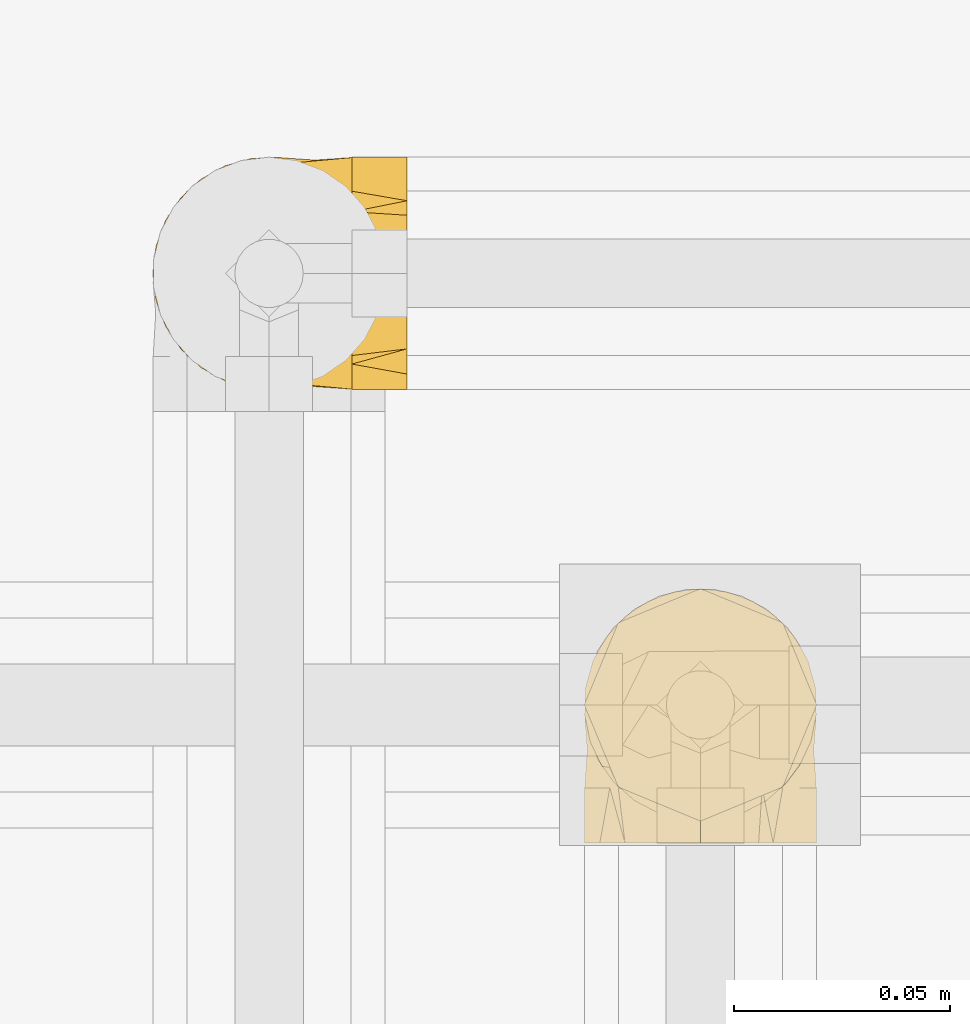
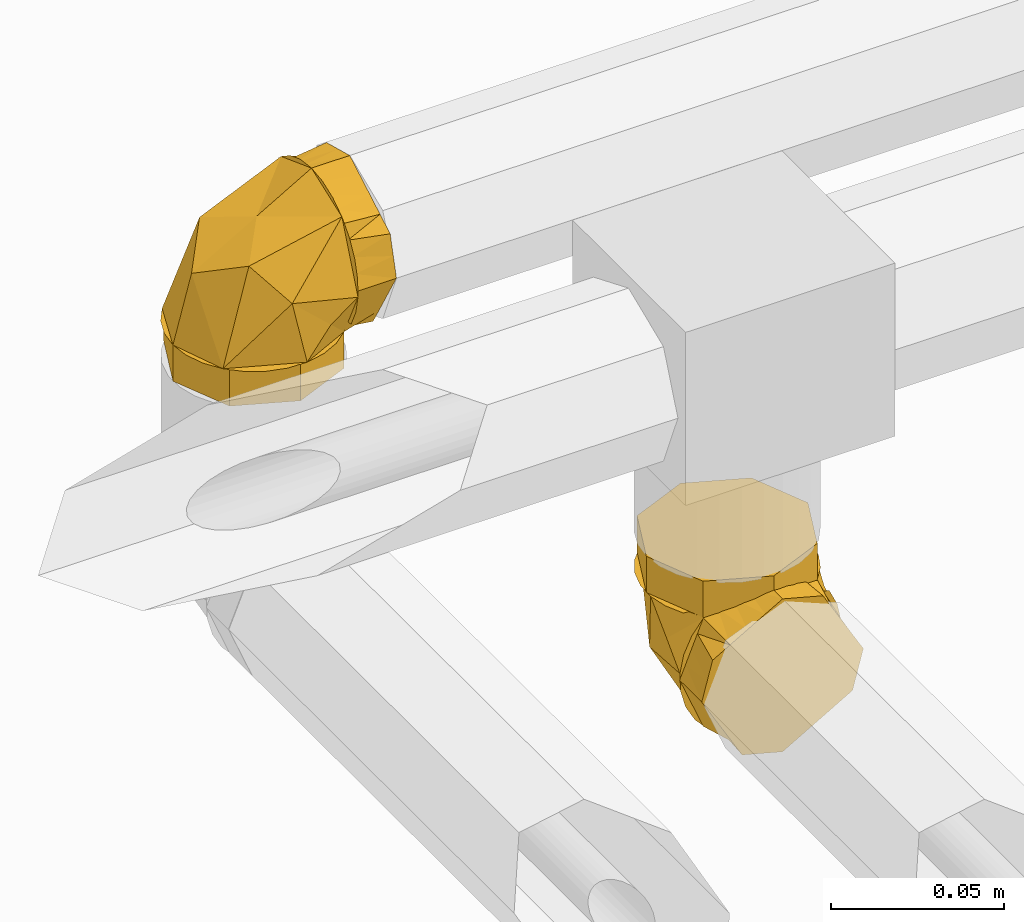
# One storey, part 300 of 652: 2 coverings.
"""IFC2X3 building model written with IfcOpenShell, lengths in millimetres."""

from ifc_helpers import new_model, entity, si_unit, converted_unit, direction, frame, origin, place, context, subcontext, project, spatial, face_set, surface_model, material, type_object, element, save


model = new_model("IFC2X3")

# Units and contexts
model_context = context("Model", 3, precision=0.01, world=frame((0.0, 0.0, 308426.39999999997)), true_north=direction((6.123233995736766e-17, 1.0)))
plan_context = context("Plan", 3, precision=0.01, world=frame((0.0, 0.0, 308426.39999999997)), true_north=direction((6.123233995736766e-17, 1.0)))
body_context = subcontext(model_context, "Body", "Model", "MODEL_VIEW")
ifc_project = project(units=[si_unit("LENGTHUNIT", "METRE", prefix="MILLI"), si_unit("AREAUNIT", "SQUARE_METRE"), si_unit("VOLUMEUNIT", "CUBIC_METRE"), converted_unit("PLANEANGLEUNIT", "DEGREE", entity("IfcPlaneAngleMeasure", 0.017453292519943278), si_unit("PLANEANGLEUNIT", "RADIAN"), dimensions=[0, 0, 0, 0, 0, 0, 0])], contexts=[model_context, plan_context])

# Site, building, storey
site_placement = place(None, origin())
site = spatial("IfcSite", under=ifc_project, at=site_placement, Name="Default", CompositionType="ELEMENT")
building_placement = place(site_placement, origin())
building = spatial("IfcBuilding", under=site, at=building_placement, CompositionType="ELEMENT")
storey_placement = place(building_placement, frame((0.0, 0.0, 1730.6999999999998)))
storey = spatial("IfcBuildingStorey", under=building, at=storey_placement, Name="EG_Produktion_FFB", CompositionType="ELEMENT", Elevation=1730.6999999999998)

# Coverings
ifc_material = material(Name="Dämmung - Armaflex-Schlauch")
covering_type = type_object("IfcCoveringType", Name="Rohrdämmung außen:Armaflex-Schlauch", PredefinedType="INSULATION")
covering_1_placement = place(storey_placement, frame((35471.46722776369, 40846.46722776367, 3768.0162500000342)))
element("IfcCovering", 1, at=covering_1_placement, inside=storey, type_object=covering_type, material=ifc_material, Name="Rohrdämmung außen:Armaflex-Schlauch", ObjectType="Rohrdämmung außen:Armaflex-Schlauch", PredefinedType="INSULATION", context=body_context, shape_type="SurfaceModel", body=[
    surface_model("IfcFaceBasedSurfaceModel", [(47.750272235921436, 9.65642195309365, 12.766250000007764), (42.792234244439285, 5.678961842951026, 12.76625000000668), (37.040242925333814, 2.973980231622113, 12.76625000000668), (30.81456370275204, 1.6920879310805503, 12.766250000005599), (24.461836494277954, 1.904659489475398, 12.766250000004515), (18.335775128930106, 3.599859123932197, 12.766250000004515), (12.777472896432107, 6.683299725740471, 12.766250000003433), (8.096410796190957, 10.983298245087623, 12.766250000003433), (4.553225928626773, 16.26043484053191, 12.76625000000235), (2.3451994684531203, 22.220883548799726, 12.76625000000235), (1.5952722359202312, 28.532772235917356, 12.76625000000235), (2.3451994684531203, 34.844660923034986, 12.76625000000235), (4.553225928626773, 40.8051096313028, 12.76625000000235), (8.096410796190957, 46.08224622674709, 12.766250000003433), (12.777472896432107, 50.38224474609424, 12.766250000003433), (18.335775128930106, 53.465685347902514, 12.766250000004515), (24.461836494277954, 55.16088498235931, 12.766250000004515), (30.81456370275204, 55.37345654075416, 12.766250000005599), (37.040242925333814, 54.0915642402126, 12.76625000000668), (42.792234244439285, 51.38658262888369, 12.76625000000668), (47.750272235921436, 47.409122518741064, 12.766250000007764), (47.750272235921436, 5.678961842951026, 17.72428799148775), (47.750272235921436, 2.973980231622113, 23.4762793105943), (47.750272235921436, 1.6920879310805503, 29.70195853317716), (47.7502722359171, 1.904659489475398, 36.05468574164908), (47.7502722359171, 3.599859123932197, 42.18074710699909), (47.7502722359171, 6.683299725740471, 47.73904933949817), (47.7502722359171, 10.983298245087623, 52.420111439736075), (47.7502722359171, 16.26043484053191, 55.96329630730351), (47.7502722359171, 22.220883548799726, 58.171322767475), (47.7502722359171, 28.532772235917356, 58.92125000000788), (47.7502722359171, 34.844660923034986, 58.171322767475), (47.7502722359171, 40.8051096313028, 55.96329630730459), (47.7502722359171, 46.08224622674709, 52.420111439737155), (47.7502722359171, 50.38224474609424, 47.73904933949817), (47.7502722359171, 53.465685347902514, 42.18074710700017), (47.7502722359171, 55.16088498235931, 36.05468574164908), (47.750272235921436, 55.37345654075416, 29.70195853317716), (47.750272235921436, 54.0915642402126, 23.4762793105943), (47.750272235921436, 51.38658262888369, 17.72428799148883), (39.06989992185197, 2.2766198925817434, 22.708937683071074), (7.778786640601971, 28.530831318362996, 35.843601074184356), (26.952034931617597, 3.602120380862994, 33.56525176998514), (19.454818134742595, 6.336837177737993, 12.766521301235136), (29.486763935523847, 28.530831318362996, 48.37655700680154), (18.67579591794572, 14.285189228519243, 43.18385070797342), (47.7507654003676, 6.336837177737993, 41.061305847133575), (18.67579591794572, 42.781124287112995, 43.18385070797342), (39.06989992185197, 54.789693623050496, 22.708937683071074), (26.952034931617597, 53.464193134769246, 33.56525176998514), (47.7507654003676, 50.72947633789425, 41.061305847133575), (19.454818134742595, 50.72947633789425, 12.766521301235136), (1.5952722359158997, 28.532772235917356, 0.0), (3.567725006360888, 33.29469446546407, 0.0), (5.540177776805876, 38.05661669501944, 0.0), (7.512630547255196, 42.81853892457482, 0.0), (9.485083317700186, 47.5804611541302, 0.0), (14.247005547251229, 49.552913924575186, 0.0), (19.008927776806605, 51.525366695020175, 0.0), (23.77085000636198, 53.49781946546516, 0.0), (28.532772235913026, 55.47027223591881, 0.0), (33.2946944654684, 53.497819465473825, 0.0), (38.05661669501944, 51.525366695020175, 0.0), (42.81853892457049, 49.552913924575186, 0.0), (47.580461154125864, 47.5804611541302, 0.0), (49.55291392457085, 42.81853892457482, 0.0), (51.525366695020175, 38.05661669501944, 0.0), (53.49781946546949, 33.29469446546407, 0.0), (55.47027223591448, 28.532772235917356, 0.0), (53.49781946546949, 23.770850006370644, 0.0), (51.525366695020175, 19.008927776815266, 0.0), (49.552913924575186, 14.247005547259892, 0.0), (47.580461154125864, 9.485083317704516, 0.0), (42.81853892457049, 7.512630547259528, 0.0), (38.05661669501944, 5.54017777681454, 0.0), (33.2946944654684, 3.567725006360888, 0.0), (28.532772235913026, 1.5952722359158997, 0.0), (23.770850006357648, 3.567725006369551, 0.0), (19.008927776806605, 5.54017777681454, 0.0), (14.247005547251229, 7.512630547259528, 0.0), (9.485083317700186, 9.485083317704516, 0.0), (7.512630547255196, 14.247005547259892, 0.0), (5.540177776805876, 19.008927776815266, 0.0), (3.567725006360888, 23.77085000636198, 0.0), (1.5952722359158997, 28.532772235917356, 12.76625000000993), (3.567725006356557, 23.770850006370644, 12.76625000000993), (5.540177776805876, 19.008927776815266, 12.76625000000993), (7.512630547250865, 14.247005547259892, 12.766250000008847), (9.485083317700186, 9.485083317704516, 12.766250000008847), (15.253472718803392, 7.095738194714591, 12.766250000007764), (21.021862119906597, 4.706393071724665, 12.76625000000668), (28.532772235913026, 1.5952722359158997, 12.766250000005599), (33.29469446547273, 3.567725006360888, 12.766250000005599), (38.05661669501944, 5.54017777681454, 12.766250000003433), (42.81853892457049, 7.512630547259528, 12.76625000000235), (47.580461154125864, 9.485083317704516, 12.76625000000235), (49.96980627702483, 15.253472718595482, 12.766250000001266), (52.35915139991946, 21.021862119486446, 12.766250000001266), (55.47027223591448, 28.532772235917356, 12.766250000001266), (53.49781946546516, 33.29469446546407, 12.766250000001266), (51.525366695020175, 38.05661669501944, 12.766250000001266), (49.552913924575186, 42.81853892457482, 12.76625000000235), (47.580461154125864, 47.5804611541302, 12.76625000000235), (41.8120717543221, 49.96980627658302, 12.766250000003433), (36.043682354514, 52.359151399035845, 12.766250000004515), (28.532772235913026, 55.47027223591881, 12.766250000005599), (23.77085000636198, 53.49781946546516, 12.76625000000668), (19.008927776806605, 51.525366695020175, 12.766250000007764), (14.247005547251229, 49.552913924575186, 12.766250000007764), (9.485083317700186, 47.5804611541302, 12.766250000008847), (7.095738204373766, 41.81207177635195, 12.76625000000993), (4.706393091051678, 36.0436823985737, 12.76625000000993), (60.516522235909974, 28.532772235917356, 58.92125000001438), (60.51652223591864, 22.700632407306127, 55.554062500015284), (60.51652223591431, 16.868492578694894, 52.1868750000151), (60.516522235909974, 11.036352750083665, 48.819687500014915), (60.516522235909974, 5.204212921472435, 45.45250000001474), (60.516522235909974, 3.3997425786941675, 38.718125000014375), (60.516522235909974, 1.5952722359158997, 31.98375000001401), (60.51652223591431, 4.962459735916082, 26.15161017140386), (60.51652223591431, 8.329647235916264, 20.31947034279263), (60.516522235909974, 11.696834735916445, 14.487330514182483), (60.516522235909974, 15.064022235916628, 8.655190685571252), (60.516522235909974, 21.79839723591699, 6.850720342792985), (60.516522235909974, 28.532772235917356, 5.046250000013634), (60.51652223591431, 34.36491206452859, 8.413437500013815), (60.51652223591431, 40.197051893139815, 11.780625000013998), (60.51652223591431, 46.02919172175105, 15.14781250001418), (60.516522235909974, 51.86133155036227, 18.51500000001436), (60.516522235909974, 53.66580189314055, 25.249375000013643), (60.516522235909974, 55.47027223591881, 31.98375000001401), (60.51652223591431, 52.10308473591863, 37.81588982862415), (60.51652223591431, 48.73589723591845, 43.648029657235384), (60.51652223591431, 45.368709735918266, 49.480169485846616), (60.516522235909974, 42.00152223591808, 55.31230931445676), (60.516522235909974, 35.26714723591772, 57.11677965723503), (47.750272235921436, 28.532772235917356, 58.92125000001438), (47.750272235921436, 33.29469446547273, 56.94879722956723), (47.750272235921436, 38.05661669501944, 54.97634445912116), (47.7502722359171, 42.81853892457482, 53.003891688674), (47.750272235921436, 47.5804611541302, 51.03143891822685), (47.750272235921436, 49.552913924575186, 46.26951668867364), (47.750272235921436, 51.525366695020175, 41.507594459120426), (47.750272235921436, 53.49781946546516, 36.74567222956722), (47.750272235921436, 55.47027223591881, 31.98375000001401), (47.750272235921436, 53.497819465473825, 27.2218277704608), (47.750272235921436, 51.525366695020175, 22.459905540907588), (47.750272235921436, 49.552913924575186, 17.697983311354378), (47.750272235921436, 47.5804611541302, 12.936061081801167), (47.750272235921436, 42.81853892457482, 10.963608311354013), (47.750272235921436, 38.05661669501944, 8.99115554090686), (47.750272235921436, 33.29469446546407, 7.018702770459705), (47.750272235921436, 28.532772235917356, 5.046250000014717), (47.750272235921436, 23.77085000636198, 7.018702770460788), (47.750272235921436, 19.008927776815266, 8.99115554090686), (47.75027223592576, 14.247005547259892, 10.963608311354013), (47.750272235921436, 9.485083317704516, 12.936061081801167), (47.750272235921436, 7.512630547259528, 17.697983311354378), (47.750272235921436, 5.54017777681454, 22.459905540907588), (47.75027223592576, 3.567725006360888, 27.2218277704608), (47.750272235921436, 1.5952722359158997, 31.98375000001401), (47.7502722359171, 3.567725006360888, 36.74567222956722), (47.750272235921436, 5.54017777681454, 41.507594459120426), (47.7502722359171, 7.512630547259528, 46.26951668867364), (47.750272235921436, 9.485083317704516, 51.03143891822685), (47.7502722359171, 14.247005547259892, 53.003891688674), (47.750272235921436, 19.008927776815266, 54.97634445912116), (47.7502722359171, 23.77085000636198, 56.94879722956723)], [face_set([[[0, 1, 2, 3, 4, 5, 6, 7, 8, 9, 10, 11, 12, 13, 14, 15, 16, 17, 18, 19]], [[20, 21, 22, 23, 24, 25, 26, 27, 28, 29, 30, 31, 32, 33, 34, 35, 36, 37, 38, 39]], [[0, 40, 3]], [[10, 7, 41]], [[23, 42, 40]], [[42, 7, 43]], [[23, 40, 0]], [[3, 40, 42]], [[44, 41, 45]], [[7, 45, 41]], [[27, 30, 44]], [[44, 45, 27]], [[42, 27, 45]], [[42, 23, 46]], [[7, 42, 45]], [[43, 3, 42]], [[46, 27, 42]], [[13, 10, 41]], [[33, 47, 44]], [[44, 30, 33]], [[48, 49, 37]], [[49, 33, 50]], [[17, 49, 48]], [[44, 47, 41]], [[20, 48, 37]], [[47, 49, 13]], [[17, 48, 20]], [[41, 47, 13]], [[49, 17, 51]], [[33, 49, 47]], [[50, 37, 49]], [[51, 13, 49]]]), face_set([[[52, 53, 54, 55, 56, 57, 58, 59, 60, 61, 62, 63, 64, 65, 66, 67, 68, 69, 70, 71, 72, 73, 74, 75, 76, 77, 78, 79, 80, 81, 82, 83]], [[84, 85, 86, 87, 88, 89, 90, 91, 92, 93, 94, 95, 96, 97, 98, 99, 100, 101, 102, 103, 104, 105, 106, 107, 108, 109, 110, 111]], [[111, 110, 109, 56, 55, 54, 53, 52, 84]], [[56, 109, 108, 107, 106, 105, 60, 59, 58, 57]], [[104, 103, 102, 64, 63, 62, 61, 60, 105]], [[64, 102, 101, 100, 99, 98, 68, 67, 66, 65]], [[97, 96, 95, 72, 71, 70, 69, 68, 98]], [[72, 95, 94, 93, 92, 91, 76, 75, 74, 73]], [[90, 89, 88, 80, 79, 78, 77, 76, 91]], [[80, 88, 87, 86, 85, 84, 52, 83, 82, 81]]]), face_set([[[112, 113, 114, 115, 116, 117, 118, 119, 120, 121, 122, 123, 124, 125, 126, 127, 128, 129, 130, 131, 132, 133, 134, 135]], [[136, 137, 138, 139, 140, 141, 142, 143, 144, 145, 146, 147, 148, 149, 150, 151, 152, 153, 154, 155, 156, 157, 158, 159, 160, 161, 162, 163, 164, 165, 166, 167]], [[155, 121, 156]], [[118, 159, 119]], [[159, 158, 119]], [[123, 154, 153]], [[153, 152, 124]], [[121, 155, 122]], [[120, 158, 157]], [[118, 160, 159]], [[158, 120, 119]], [[124, 123, 153]], [[157, 156, 121]], [[155, 154, 122]], [[123, 122, 154]], [[120, 157, 121]], [[163, 115, 164]], [[112, 167, 113]], [[167, 166, 113]], [[117, 162, 161]], [[161, 160, 118]], [[115, 163, 116]], [[114, 166, 165]], [[112, 136, 167]], [[166, 114, 113]], [[118, 117, 161]], [[165, 164, 115]], [[163, 162, 116]], [[117, 116, 162]], [[114, 165, 115]], [[139, 133, 140]], [[130, 143, 131]], [[143, 142, 131]], [[135, 138, 137]], [[137, 136, 112]], [[133, 139, 134]], [[132, 142, 141]], [[130, 144, 143]], [[142, 132, 131]], [[112, 135, 137]], [[141, 140, 133]], [[139, 138, 134]], [[135, 134, 138]], [[132, 141, 133]], [[147, 127, 148]], [[124, 151, 125]], [[151, 150, 125]], [[129, 146, 145]], [[145, 144, 130]], [[127, 147, 128]], [[126, 150, 149]], [[124, 152, 151]], [[150, 126, 125]], [[130, 129, 145]], [[149, 148, 127]], [[147, 146, 128]], [[129, 128, 146]], [[126, 149, 127]]])]),
])
covering_2_placement = place(storey_placement, frame((35571.46722776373, 40743.01624999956, 3671.467227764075)))
element("IfcCovering", 2, at=covering_2_placement, inside=storey, type_object=covering_type, material=ifc_material, Name="Rohrdämmung außen:Armaflex-Schlauch", ObjectType="Rohrdämmung außen:Armaflex-Schlauch", PredefinedType="INSULATION", context=body_context, shape_type="SurfaceModel", body=[
    surface_model("IfcFaceBasedSurfaceModel", [(47.40912251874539, 12.766249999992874, 47.750272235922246), (51.38658262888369, 17.724287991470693, 47.750272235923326), (54.0915642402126, 23.47627931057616, 47.750272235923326), (55.37345654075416, 29.70195853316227, 47.75027223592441), (55.16088498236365, 36.054685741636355, 47.75027223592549), (53.46568534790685, 42.1807471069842, 47.75027223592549), (50.38224474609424, 47.7390493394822, 47.75027223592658), (46.08224622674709, 52.420111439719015, 47.75027223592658), (40.80510963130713, 55.963296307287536, 47.75027223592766), (34.84466092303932, 58.17132276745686, 47.75027223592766), (28.532772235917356, 58.921249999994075, 47.75027223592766), (22.220883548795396, 58.17132276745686, 47.75027223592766), (16.26043484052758, 55.963296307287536, 47.75027223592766), (10.983298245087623, 52.420111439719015, 47.75027223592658), (6.683299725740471, 47.7390493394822, 47.75027223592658), (3.5998591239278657, 42.1807471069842, 47.75027223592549), (1.9046594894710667, 36.054685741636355, 47.75027223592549), (1.6920879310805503, 29.70195853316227, 47.75027223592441), (2.973980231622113, 23.47627931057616, 47.750272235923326), (5.678961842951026, 17.724287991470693, 47.750272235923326), (9.65642195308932, 12.766249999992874, 47.750272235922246), (5.678961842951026, 12.766249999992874, 42.79223424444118), (2.973980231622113, 12.766249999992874, 37.04024292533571), (1.6920879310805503, 12.766249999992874, 30.81456370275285), (1.9046594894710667, 12.766249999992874, 24.46183649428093), (3.5998591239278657, 12.766249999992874, 18.335775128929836), (6.683299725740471, 12.766249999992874, 12.777472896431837), (10.983298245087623, 12.766250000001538, 8.096410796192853), (16.26043484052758, 12.766250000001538, 4.5532259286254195), (22.220883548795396, 12.766250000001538, 2.3451994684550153), (28.532772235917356, 12.766250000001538, 1.5952722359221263), (34.84466092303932, 12.766250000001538, 2.3451994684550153), (40.80510963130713, 12.766250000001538, 4.553225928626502), (46.08224622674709, 12.766250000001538, 8.096410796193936), (50.38224474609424, 12.766249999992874, 12.777472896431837), (53.46568534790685, 12.766249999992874, 18.33577512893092), (55.16088498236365, 12.766249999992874, 24.46183649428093), (55.37345654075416, 12.766249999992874, 30.81456370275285), (54.0915642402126, 12.766249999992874, 37.04024292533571), (51.38658262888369, 12.766249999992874, 42.79223424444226), (54.78841798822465, 21.44902099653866, 37.807698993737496), (28.531881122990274, 52.735483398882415, 24.673035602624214), (53.465242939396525, 33.564560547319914, 26.950803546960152), (50.7282007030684, 41.061777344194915, 47.750115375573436), (28.531881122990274, 31.029831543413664, 12.140079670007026), (42.77984865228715, 41.843125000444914, 17.33278596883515), (50.7282007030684, 12.76583007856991, 19.455330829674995), (14.286239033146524, 41.843125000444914, 17.33278596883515), (2.2753442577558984, 21.44902099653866, 37.807698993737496), (3.600844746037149, 33.564560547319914, 26.950803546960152), (6.337886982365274, 12.76583007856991, 19.455330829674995), (6.337886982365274, 41.061777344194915, 47.750115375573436), (28.532772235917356, 58.921250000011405, 60.5165222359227), (23.77085000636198, 56.948797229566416, 60.51652223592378), (19.008927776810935, 54.97634445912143, 60.51652223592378), (14.247005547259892, 53.00389168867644, 60.51652223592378), (9.485083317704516, 51.03143891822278, 60.51652223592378), (7.512630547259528, 46.26951668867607, 60.51652223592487), (5.540177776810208, 41.507594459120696, 60.51652223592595), (3.567725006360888, 36.74567222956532, 60.51652223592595), (1.5952722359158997, 31.983750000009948, 60.516522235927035), (3.5677250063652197, 27.22182777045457, 60.516522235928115), (5.540177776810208, 22.459905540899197, 60.516522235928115), (7.512630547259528, 17.69798331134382, 60.516522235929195), (9.485083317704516, 12.936061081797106, 60.51652223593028), (14.247005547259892, 10.963608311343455, 60.51652223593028), (19.008927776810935, 8.991155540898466, 60.51652223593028), (23.77085000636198, 7.018702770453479, 60.51652223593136), (28.532772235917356, 5.046250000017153, 60.51652223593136), (33.2946944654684, 7.018702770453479, 60.51652223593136), (38.05661669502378, 8.991155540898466, 60.51652223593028), (42.81853892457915, 10.963608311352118, 60.51652223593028), (47.5804611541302, 12.936061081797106, 60.51652223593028), (49.552913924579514, 17.69798331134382, 60.516522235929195), (51.5253666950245, 22.459905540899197, 60.516522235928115), (53.49781946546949, 27.22182777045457, 60.516522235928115), (55.47027223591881, 31.983750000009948, 60.516522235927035), (53.49781946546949, 36.74567222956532, 60.51652223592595), (51.5253666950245, 41.507594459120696, 60.51652223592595), (49.552913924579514, 46.26951668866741, 60.51652223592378), (47.5804611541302, 51.03143891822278, 60.51652223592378), (42.81853892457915, 53.00389168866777, 60.51652223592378), (38.05661669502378, 54.97634445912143, 60.51652223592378), (33.29469446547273, 56.948797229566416, 60.5165222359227), (28.532772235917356, 58.92125000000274, 47.75027223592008), (33.2946944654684, 56.948797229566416, 47.75027223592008), (38.05661669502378, 54.97634445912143, 47.75027223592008), (42.81853892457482, 53.00389168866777, 47.750272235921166), (47.5804611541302, 51.03143891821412, 47.750272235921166), (49.96980627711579, 45.26304951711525, 47.750272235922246), (52.35915140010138, 39.49466011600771, 47.750272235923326), (55.47027223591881, 31.983750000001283, 47.75027223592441), (53.49781946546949, 27.22182777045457, 47.75027223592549), (51.5253666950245, 22.459905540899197, 47.75027223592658), (49.552913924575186, 17.69798331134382, 47.75027223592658), (47.5804611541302, 12.936061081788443, 47.75027223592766), (41.812071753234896, 10.546715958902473, 47.75027223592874), (36.04368235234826, 8.157370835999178, 47.75027223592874), (28.532772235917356, 5.046250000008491, 47.75027223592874), (23.770850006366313, 7.018702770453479, 47.75027223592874), (19.008927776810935, 8.991155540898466, 47.75027223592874), (14.24700554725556, 10.963608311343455, 47.75027223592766), (9.485083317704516, 12.936061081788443, 47.75027223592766), (7.095738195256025, 18.704450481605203, 47.75027223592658), (4.706393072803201, 24.472839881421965, 47.75027223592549), (1.5952722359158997, 31.983750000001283, 47.75027223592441), (3.567725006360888, 36.74567222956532, 47.750272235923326), (5.540177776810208, 41.507594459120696, 47.750272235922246), (7.512630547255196, 46.26951668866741, 47.750272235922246), (9.485083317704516, 51.03143891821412, 47.750272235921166), (15.253472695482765, 53.420784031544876, 47.750272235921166), (21.02186207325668, 55.810129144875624, 47.75027223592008), (28.532772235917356, 0.0, 1.595272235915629), (34.36491206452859, 0.0, 4.962459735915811), (40.197051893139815, 0.0, 8.32964723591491), (46.02919172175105, 0.0, 11.696834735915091), (51.86133155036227, 0.0, 15.064022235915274), (53.66580189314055, 0.0, 21.798397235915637), (55.47027223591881, 0.0, 28.532772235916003), (52.10308473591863, 0.0, 34.36491206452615), (48.73589723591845, 0.0, 40.19705189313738), (45.368709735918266, 0.0, 46.02919172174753), (42.00152223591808, 0.0, 51.861331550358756), (35.26714723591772, 0.0, 53.66580189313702), (28.532772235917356, 0.0, 55.470272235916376), (22.700632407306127, 0.0, 52.10308473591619), (16.868492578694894, 0.0, 48.73589723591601), (11.036352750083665, 0.0, 45.36870973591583), (5.204212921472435, 0.0, 42.00152223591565), (3.3997425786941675, 0.0, 35.26714723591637), (1.5952722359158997, 0.0, 28.532772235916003), (4.962459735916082, 0.0, 22.700632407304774), (8.329647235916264, 0.0, 16.868492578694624), (11.696834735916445, 0.0, 11.036352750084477), (15.064022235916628, 0.0, 5.204212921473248), (21.79839723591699, 0.0, 3.3997425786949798), (28.532772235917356, 12.766250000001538, 1.595272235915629), (23.770850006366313, 12.766250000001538, 3.567725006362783), (19.008927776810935, 12.766250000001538, 5.5401777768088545), (14.24700554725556, 12.766249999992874, 7.512630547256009), (9.485083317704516, 12.766250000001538, 9.485083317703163), (7.512630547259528, 12.766250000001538, 14.247005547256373), (5.540177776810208, 12.766250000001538, 19.008927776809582), (3.567725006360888, 12.766250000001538, 23.770850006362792), (1.5952722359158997, 12.766250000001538, 28.532772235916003), (3.567725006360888, 12.766250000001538, 33.29469446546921), (5.540177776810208, 12.766250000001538, 38.05661669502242), (7.512630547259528, 12.766250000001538, 42.818538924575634), (9.485083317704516, 12.766250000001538, 47.58046115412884), (14.247005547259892, 12.766250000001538, 49.552913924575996), (19.008927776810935, 12.766250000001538, 51.52536669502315), (23.77085000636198, 12.766250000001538, 53.49781946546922), (28.532772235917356, 12.766250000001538, 55.470272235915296), (33.29469446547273, 12.766250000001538, 53.49781946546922), (38.05661669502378, 12.766250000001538, 51.52536669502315), (42.81853892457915, 12.766250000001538, 49.552913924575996), (47.5804611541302, 12.766250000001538, 47.58046115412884), (49.552913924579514, 12.766250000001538, 42.818538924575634), (51.5253666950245, 12.766250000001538, 38.05661669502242), (53.497819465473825, 12.766250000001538, 33.29469446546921), (55.47027223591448, 12.766250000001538, 28.532772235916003), (53.49781946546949, 12.766250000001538, 23.770850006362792), (51.5253666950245, 12.766250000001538, 19.008927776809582), (49.552913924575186, 12.766249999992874, 14.247005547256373), (47.5804611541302, 12.766250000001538, 9.485083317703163), (42.81853892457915, 12.766250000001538, 7.512630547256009), (38.05661669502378, 12.766250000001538, 5.5401777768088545), (33.2946944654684, 12.766249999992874, 3.5677250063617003)], [face_set([[[0, 1, 2, 3, 4, 5, 6, 7, 8, 9, 10, 11, 12, 13, 14, 15, 16, 17, 18, 19]], [[20, 21, 22, 23, 24, 25, 26, 27, 28, 29, 30, 31, 32, 33, 34, 35, 36, 37, 38, 39]], [[0, 40, 3]], [[10, 7, 41]], [[37, 42, 40]], [[42, 7, 43]], [[37, 40, 0]], [[3, 40, 42]], [[44, 41, 45]], [[7, 45, 41]], [[33, 30, 44]], [[44, 45, 33]], [[42, 33, 45]], [[42, 37, 46, 33]], [[7, 42, 45]], [[43, 3, 42]], [[13, 10, 41]], [[27, 47, 44]], [[44, 30, 27]], [[48, 49, 23]], [[49, 27, 50, 23]], [[17, 49, 48]], [[44, 47, 41]], [[20, 48, 23]], [[47, 49, 13]], [[17, 48, 20]], [[41, 47, 13]], [[49, 17, 51]], [[27, 49, 47]], [[51, 13, 49]]]), face_set([[[52, 53, 54, 55, 56, 57, 58, 59, 60, 61, 62, 63, 64, 65, 66, 67, 68, 69, 70, 71, 72, 73, 74, 75, 76, 77, 78, 79, 80, 81, 82, 83]], [[84, 85, 86, 87, 88, 89, 90, 91, 92, 93, 94, 95, 96, 97, 98, 99, 100, 101, 102, 103, 104, 105, 106, 107, 108, 109, 110, 111]], [[111, 110, 109, 56, 55, 54, 53, 52, 84]], [[56, 109, 108, 107, 106, 105, 60, 59, 58, 57]], [[104, 103, 102, 64, 63, 62, 61, 60, 105]], [[64, 102, 101, 100, 99, 98, 68, 67, 66, 65]], [[97, 96, 95, 72, 71, 70, 69, 68, 98]], [[72, 95, 94, 93, 92, 91, 76, 75, 74, 73]], [[90, 89, 88, 80, 79, 78, 77, 76, 91]], [[80, 88, 87, 86, 85, 84, 52, 83, 82, 81]]]), face_set([[[112, 113, 114, 115, 116, 117, 118, 119, 120, 121, 122, 123, 124, 125, 126, 127, 128, 129, 130, 131, 132, 133, 134, 135]], [[136, 137, 138, 139, 140, 141, 142, 143, 144, 145, 146, 147, 148, 149, 150, 151, 152, 153, 154, 155, 156, 157, 158, 159, 160, 161, 162, 163, 164, 165, 166, 167]], [[155, 121, 156]], [[118, 159, 119]], [[159, 158, 119]], [[123, 154, 153]], [[153, 152, 124]], [[121, 155, 122]], [[120, 158, 157]], [[118, 160, 159]], [[158, 120, 119]], [[124, 123, 153]], [[157, 156, 121]], [[155, 154, 122]], [[123, 122, 154]], [[120, 157, 121]], [[163, 115, 164]], [[112, 167, 113]], [[167, 166, 113]], [[117, 162, 161]], [[161, 160, 118]], [[115, 163, 116]], [[114, 166, 165]], [[112, 136, 167]], [[166, 114, 113]], [[118, 117, 161]], [[165, 164, 115]], [[163, 162, 116]], [[117, 116, 162]], [[114, 165, 115]], [[139, 133, 140]], [[130, 143, 131]], [[143, 142, 131]], [[135, 138, 137]], [[137, 136, 112]], [[133, 139, 134]], [[132, 142, 141]], [[130, 144, 143]], [[142, 132, 131]], [[112, 135, 137]], [[141, 140, 133]], [[139, 138, 134]], [[135, 134, 138]], [[132, 141, 133]], [[147, 127, 148]], [[124, 151, 125]], [[151, 150, 125]], [[129, 146, 145]], [[145, 144, 130]], [[127, 147, 128]], [[126, 150, 149]], [[124, 152, 151]], [[150, 126, 125]], [[130, 129, 145]], [[149, 148, 127]], [[147, 146, 128]], [[129, 128, 146]], [[126, 149, 127]]])]),
])

save(model, "model.ifc")
